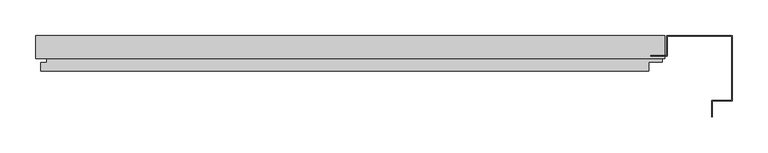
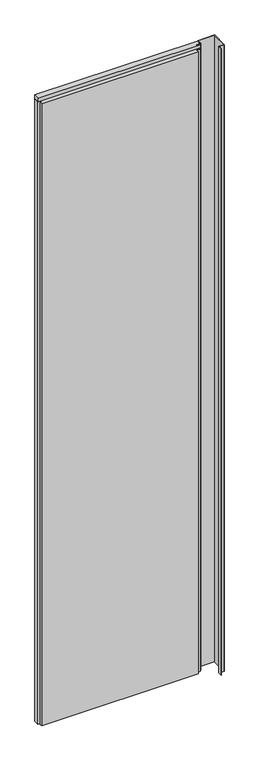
"""IFC4 building model written with IfcOpenShell, lengths in millimetres: plate geometry, Trimo_Qbiss Screen_Normal Panel-VERTICAL : HR - FB-F."""

from ifc_helpers import new_model, si_unit, frame, origin, place, context, project, spatial, polyline, outline, extrude, source, transform, mapped, element, save


def plate_b0e704c2(model_context):
    return source(origin(), model_context, "Body", "SweptSolid", [
        extrude(outline(polyline([(456.0, 97.0), (437.0, 97.0), (437.0, 126.0), (456.0, 126.0), (456.0, 97.0)])), frame((0.0, 0.0, 12.5), z_axis=(0.0, 0.0, 1.0), x_axis=(1.0, 0.0, 0.0)), (0.0, 0.0, 1.0), 3575.0),
        extrude(outline(polyline([(-425.0, 93.9), (-425.0, 126.0), (456.0, 126.0), (456.0, 93.9), (-425.0, 93.9)])), frame((0.0, 0.0, 3590.5), z_axis=(0.0, 0.0, 1.0), x_axis=(1.0, 0.0, 0.0)), (0.0, 0.0, 1.0), 19.0),
        extrude(outline(polyline([(434.0, 97.0), (452.5, 97.0), (452.5, 89.0), (434.0, 89.0), (434.0, 76.0), (-418.0, 76.0), (-418.0, 88.0), (-409.5, 88.0), (-409.5, 98.0), (-425.0, 98.0), (-425.0, 126.0), (434.0, 126.0), (434.0, 97.0)])), frame((0.0, 0.0, 12.5), z_axis=(0.0, 0.0, 1.0), x_axis=(1.0, 0.0, 0.0)), (0.0, 0.0, 1.0), 3575.0),
        extrude(outline(polyline([(459.0, 97.8), (459.0, 126.0), (551.0, 126.0), (551.0, 34.0), (522.8, 34.0), (522.8, 12.0), (522.0, 12.0), (522.0, 34.8), (550.2, 34.8), (550.2, 125.2), (459.8, 125.2), (459.8, 97.0), (437.0, 97.0), (437.0, 97.8), (459.0, 97.8)])), frame((0.0, 0.0, 12.5), z_axis=(0.0, 0.0, 1.0), x_axis=(1.0, 0.0, 0.0)), (0.0, 0.0, 1.0), 3600.0),
    ])


if __name__ == "__main__":
    model = new_model("IFC4")
    model_context = context("Model", 3, world=origin())
    ifc_project = project(units=[si_unit("LENGTHUNIT", "METRE", prefix="MILLI")], contexts=[model_context])
    site = spatial("IfcSite", under=ifc_project)
    building = spatial("IfcBuilding", under=site)
    placement = place(None, origin())
    plate_shape = plate_b0e704c2(model_context)
    element("IfcPlate", 1, ObjectType="Trimo_Qbiss Screen_Normal Panel-VERTICAL : HR - FB-F", at=placement, inside=building, context=model_context, shape_type="MappedRepresentation", body=[
        mapped(plate_shape, transform((0.0, 0.0, 0.0), x_axis=(1.0, 0.0, 0.0), y_axis=(0.0, 1.0, 0.0), z_axis=(0.0, 0.0, 1.0))),
    ])
    save(model, "model.ifc")
